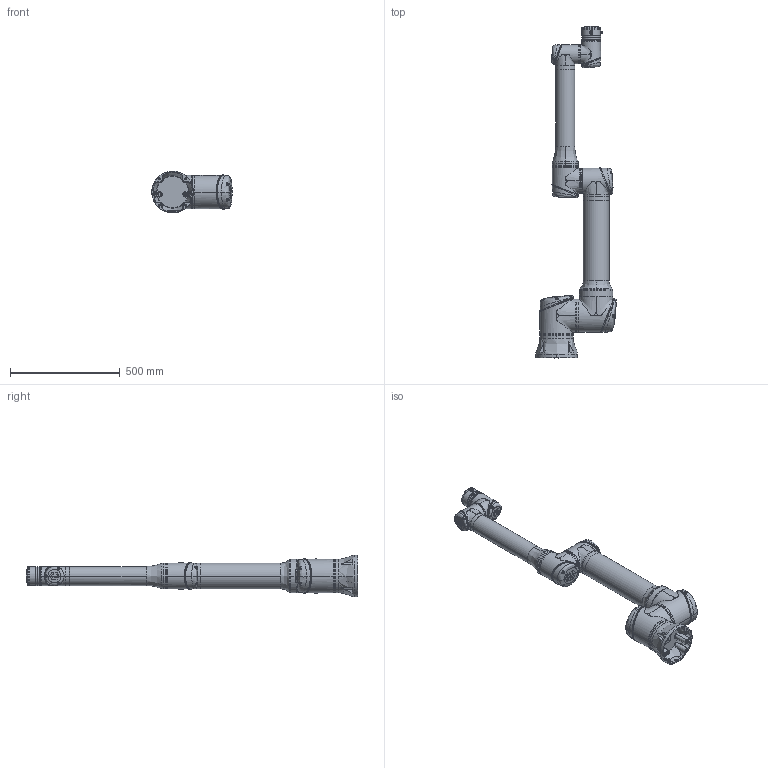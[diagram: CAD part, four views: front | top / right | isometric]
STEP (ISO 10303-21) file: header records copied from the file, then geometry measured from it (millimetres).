
FILE_DESCRIPTION (( 'STEP AP203' ), '1' );
FILE_NAME ('CS_掛极CS612A_V1.4.STEP', '2026-07-27T06:48:31', ( '' ), ( '' ), 'SwSTEP 2.0', 'SolidWorks 2020', '' );
FILE_SCHEMA (( 'CONFIG_CONTROL_DESIGN' ));
Length unit declared in the file: millimetre
Products named in the file (8): CS612A_Link2; CS612A_Base; CS612A-Flange; CS612A_Link5; CS612A_Link4-2; CS_掛极CS612A_V1.4; CS612A_Link3; CS612A_Link1
Assembly tree (7 placements, depth 2):
  CS_掛极CS612A_V1.4
    CS612A_Base
    CS612A_Link1
    CS612A_Link2
    CS612A_Link3
    CS612A_Link4-2
    CS612A_Link5
    CS612A-Flange
Bounding box: 366.83 x 1515.5 x 189.7 mm (x, y, z)
Volume: 21325469 mm3; surface area: 1382266 mm2
Topology: 82 solids, 105 shells, 5487 faces, 13162 edges, 7869 vertices
Faces by surface type: bspline 2279, plane 1404, cylinder 1087, cone 408, torus 190, sphere 119
Entity records: 547377 total; most frequent: CARTESIAN_POINT 439262, ORIENTED_EDGE 25722, DIRECTION 17504, EDGE_CURVE 12861, VERTEX_POINT 7846, AXIS2_PLACEMENT_3D 7274, EDGE_LOOP 5839, ADVANCED_FACE 5488
